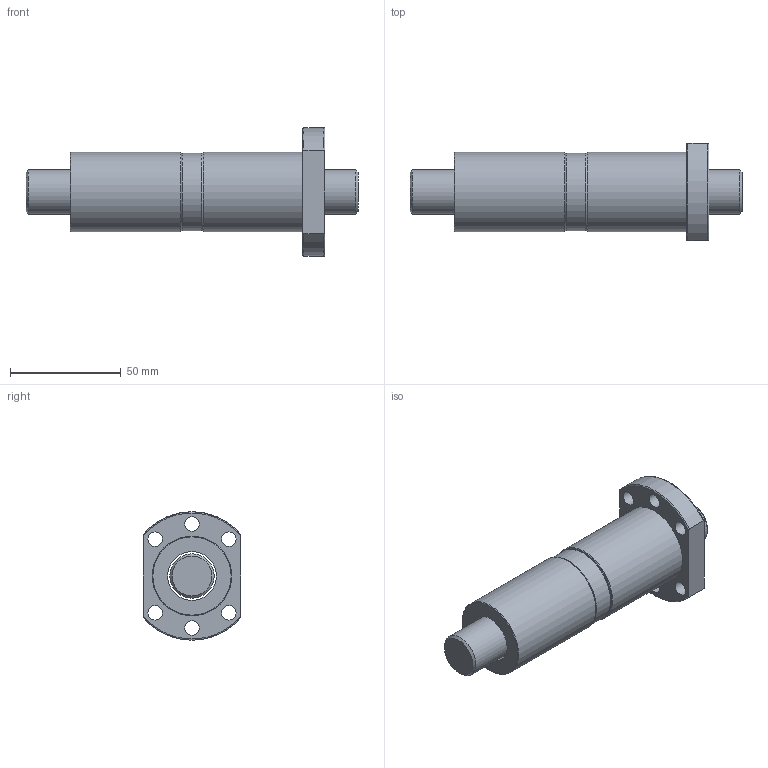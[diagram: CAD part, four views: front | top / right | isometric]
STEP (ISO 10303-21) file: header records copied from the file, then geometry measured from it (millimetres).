
FILE_DESCRIPTION(/* description */ (''),/* implementation_level */ '2;1');
FILE_NAME(/* name */ 'DFS2010',/* time_stamp */ '2007-10-26T13:35:18+08:00',/* author */ (''),/* organization */ (''),/* preprocessor_version */ 'ST-DEVELOPER v9',/* originating_system */ 'UGS - NX 3.0',/* authorisation */ '');
FILE_SCHEMA (('CONFIG_CONTROL_DESIGN'));
Length unit declared in the file: millimetre
Products named in the file (1): jaso15A4i321
Bounding box: 150 x 44 x 58 mm (x, y, z)
Volume: 127336.2 mm3; surface area: 38673.5 mm2
Topology: 4 solids, 4 shells, 39 faces, 86 edges, 57 vertices
Faces by surface type: cylinder 16, plane 12, torus 9, cone 2
Full cylindrical faces by diameter (mm): 6.6 x6, 20 x1, 22 x3, 35 x1, 35.5 x1, 36 x2
Entity records: 1180 total; most frequent: CARTESIAN_POINT 294, DIRECTION 174, ORIENTED_EDGE 118, AXIS2_PLACEMENT_3D 83, EDGE_LOOP 80, FACE_BOUND 60, EDGE_CURVE 59, VERTEX_POINT 51
